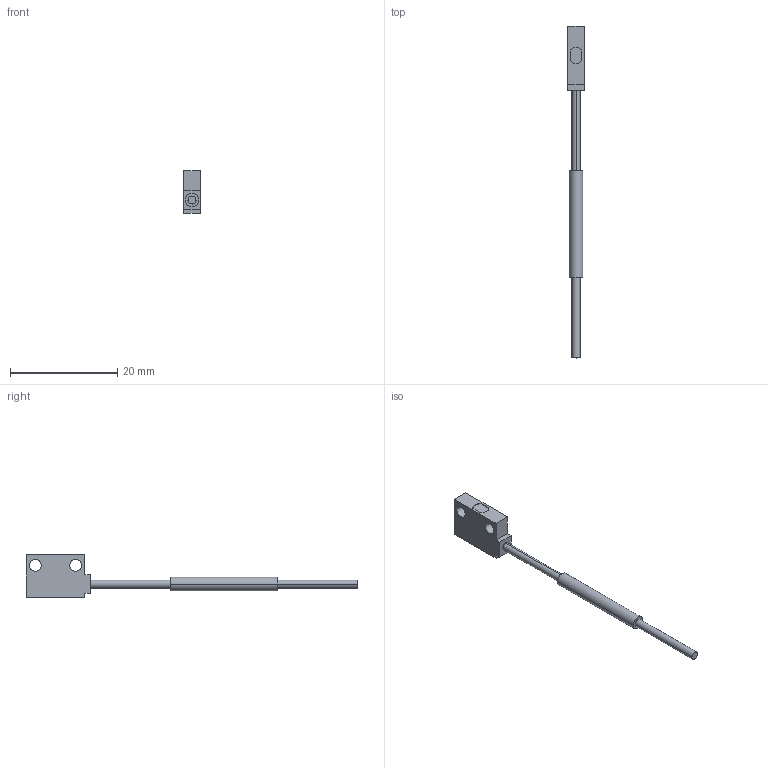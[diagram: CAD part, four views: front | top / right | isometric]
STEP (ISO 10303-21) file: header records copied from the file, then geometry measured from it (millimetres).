
FILE_DESCRIPTION (( 'STEP AP203' ), '1' );
FILE_NAME ('FT-WZ8E.STEP', '2005-09-08T02:33:48', ( '' ), ( '' ), 'SwSTEP 2.0', 'SolidWorks 2004073', '' );
FILE_SCHEMA (( 'CONFIG_CONTROL_DESIGN' ));
Length unit declared in the file: millimetre
Products named in the file (1): FT-WZ8E
Bounding box: 3 x 62 x 8 mm (x, y, z)
Volume: 402 mm3; surface area: 638.2 mm2
Topology: 2 solids, 2 shells, 29 faces, 66 edges, 44 vertices
Faces by surface type: plane 17, cylinder 12
Entity records: 907 total; most frequent: DIRECTION 150, CARTESIAN_POINT 140, ORIENTED_EDGE 132, EDGE_CURVE 66, AXIS2_PLACEMENT_3D 54, VERTEX_POINT 44, LINE 42, VECTOR 42
